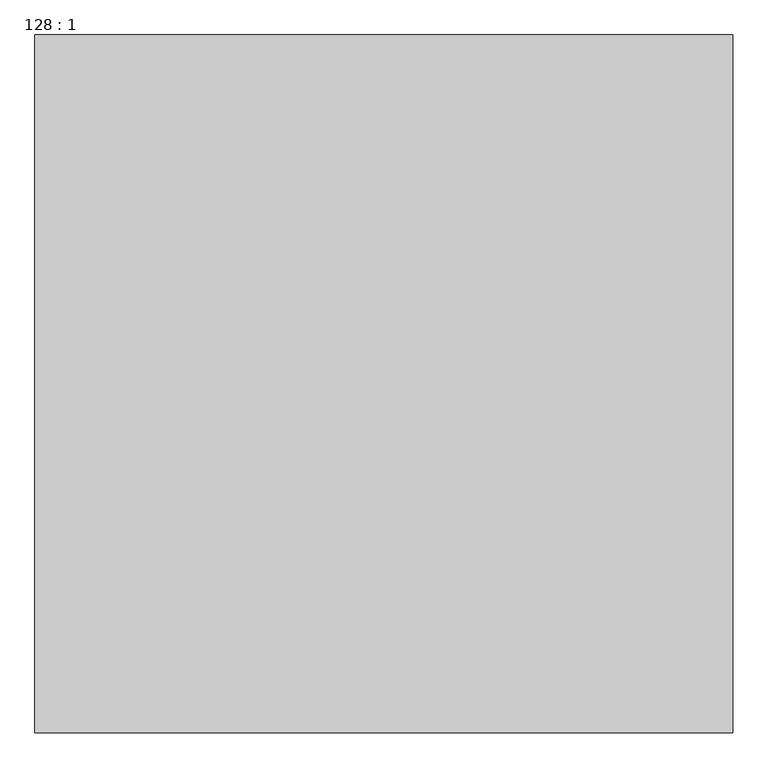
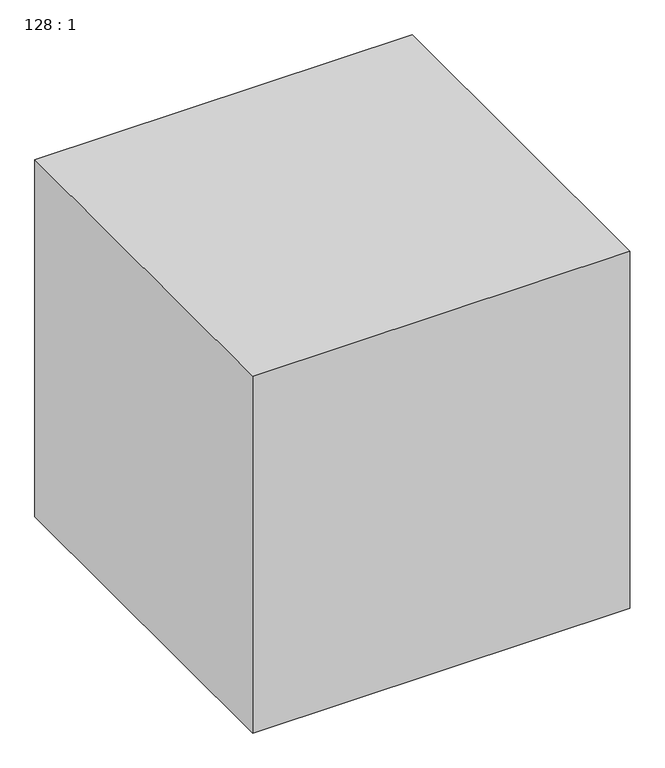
"""IFC4 building model written with IfcOpenShell, lengths in millimetres: proxy geometry, 128 : 1."""

import ifcopenshell
import ifcopenshell.guid

model = None  # the IFC model being written
_history = None  # IfcOwnerHistory: only IFC2X3 demands one
_inside = {}  # id of a spatial element -> (the spatial element, [elements in it])
_under = {}  # id of a project, library or spatial element -> (it, [spatial elements below it])
_declared = {}  # id of a project -> (the project, [libraries it declares])
_typed = {}  # id of a type object -> (the type object, [elements of that type])
_made_of = {}  # id of a material, layer set ... -> (it, [elements and type objects made of it])


def new_model(schema):
    """Start an empty IFC model of exactly this schema.

    Asked for "IFC4X3", IfcOpenShell would pick the latest addendum, in which some entities
    have other attributes; the version numbers below select the first issue.
    IFC2X3 requires an IfcOwnerHistory on every rooted entity: one is made here for all.
    """
    global model, _history
    if schema == "IFC4X3":
        model = ifcopenshell.file(schema_version=(4, 3, 0, 0))
    else:
        model = ifcopenshell.file(schema=schema)
    _inside.clear()
    _under.clear()
    _declared.clear()
    _typed.clear()
    _made_of.clear()
    _history = None
    if model.schema == "IFC2X3":
        org = make("IfcOrganization", Name="unknown")
        user = make(
            "IfcPersonAndOrganization",
            ThePerson=make("IfcPerson", FamilyName="unknown"),
            TheOrganization=org,
        )
        app = make(
            "IfcApplication",
            ApplicationDeveloper=org,
            Version="unknown",
            ApplicationFullName="unknown",
            ApplicationIdentifier="unknown",
        )
        _history = make(
            "IfcOwnerHistory",
            OwningUser=user,
            OwningApplication=app,
            ChangeAction="ADDED",
            CreationDate=0,
        )
    return model


def make(cls, **values):
    """One entity of the class cls with the attributes given. An attribute that is None is left unset."""
    return model.create_entity(
        cls, **{name: value for name, value in values.items() if value is not None}
    )


def rooted(cls, **values):
    """An entity with a GlobalId (a new one), such as an element, a storey or a relation."""
    return make(cls, GlobalId=ifcopenshell.guid.new(), OwnerHistory=_history, **values)


def si_unit(unit_type, name, prefix=None):
    """IfcSIUnit, for example si_unit("LENGTHUNIT", "METRE", prefix="MILLI")."""
    return make("IfcSIUnit", UnitType=unit_type, Prefix=prefix, Name=name)


def assignment(units):
    """IfcUnitAssignment: the units of a project."""
    return None if units is None else make("IfcUnitAssignment", Units=units)


def point(xyz):
    """IfcCartesianPoint."""
    return None if xyz is None else make("IfcCartesianPoint", Coordinates=xyz)


def direction(xyz):
    """IfcDirection."""
    return None if xyz is None else make("IfcDirection", DirectionRatios=xyz)


def frame(location, z_axis=None, x_axis=None):
    """IfcAxis2Placement3D, a coordinate frame: its origin and axes. An axis left out is left unset."""
    return make(
        "IfcAxis2Placement3D",
        Location=point(location),
        Axis=direction(z_axis),
        RefDirection=direction(x_axis),
    )


def origin():
    """The frame at (0, 0, 0) with its axes left unset."""
    return frame((0.0, 0.0, 0.0))


def origin_with_axes():
    """The frame at (0, 0, 0) with the z axis (0, 0, 1) and the x axis (1, 0, 0) written out."""
    return frame((0.0, 0.0, 0.0), z_axis=(0.0, 0.0, 1.0), x_axis=(1.0, 0.0, 0.0))


def place(relative_to, where):
    """IfcLocalPlacement: puts the frame where relative to a parent placement (None: the world)."""
    return make(
        "IfcLocalPlacement", PlacementRelTo=relative_to, RelativePlacement=where
    )


def context(
    kind, dimensions, precision=None, world=None, true_north=None, identifier=None
):
    """IfcGeometricRepresentationContext, for example the 3D "Model" context."""
    return make(
        "IfcGeometricRepresentationContext",
        ContextIdentifier=identifier,
        ContextType=kind,
        CoordinateSpaceDimension=dimensions,
        Precision=precision,
        WorldCoordinateSystem=world,
        TrueNorth=true_north,
    )


def project(units=None, contexts=None):
    """IfcProject with its units and contexts."""
    return rooted(
        "IfcProject",
        Name="project",
        RepresentationContexts=contexts,
        UnitsInContext=assignment(units),
    )


def spatial(cls, under=None, at=None, **own):
    """A site, building, storey or space (cls), placed at a placement, below another one or the project."""
    s = rooted(cls, ObjectPlacement=at, **own)
    if under is not None:
        _under.setdefault(under.id(), (under, []))[1].append(s)
    return s


def polyline(points):
    """IfcPolyline through the points."""
    return make("IfcPolyline", Points=[point(p) for p in points])


def outline(outer, holes=None, kind="AREA"):
    """IfcArbitraryClosedProfileDef: a profile drawn as a closed curve; with holes, ...WithVoids."""
    if holes is None:
        return make("IfcArbitraryClosedProfileDef", ProfileType=kind, OuterCurve=outer)
    return make(
        "IfcArbitraryProfileDefWithVoids",
        ProfileType=kind,
        OuterCurve=outer,
        InnerCurves=holes,
    )


def extrude(swept, where, along, depth):
    """IfcExtrudedAreaSolid: the profile swept, set in the frame where, extruded along a direction by depth."""
    return make(
        "IfcExtrudedAreaSolid",
        SweptArea=swept,
        Position=where,
        ExtrudedDirection=direction(along),
        Depth=depth,
    )


def shape(context_of_items, identifier, shape_type, items):
    """IfcShapeRepresentation: the items that make up one representation, for example the "Body"."""
    return make(
        "IfcShapeRepresentation",
        ContextOfItems=context_of_items,
        RepresentationIdentifier=identifier,
        RepresentationType=shape_type,
        Items=items,
    )


def source(mapping_origin, context_of_items, identifier, shape_type, items):
    """IfcRepresentationMap: a shape defined once, which mapped items show again and again."""
    return make(
        "IfcRepresentationMap",
        MappingOrigin=mapping_origin,
        MappedRepresentation=shape(context_of_items, identifier, shape_type, items),
    )


def transform(
    local_origin,
    x_axis=None,
    y_axis=None,
    z_axis=None,
    scale=None,
    scale2=None,
    scale3=None,
    uniform=True,
):
    """IfcCartesianTransformationOperator3D, or its non-uniform kind. x_axis, y_axis, z_axis: its Axis1, 2, 3."""
    if uniform:
        return make(
            "IfcCartesianTransformationOperator3D",
            Axis1=direction(x_axis),
            Axis2=direction(y_axis),
            LocalOrigin=point(local_origin),
            Scale=scale,
            Axis3=direction(z_axis),
        )
    return make(
        "IfcCartesianTransformationOperator3DnonUniform",
        Axis1=direction(x_axis),
        Axis2=direction(y_axis),
        LocalOrigin=point(local_origin),
        Scale=scale,
        Axis3=direction(z_axis),
        Scale2=scale2,
        Scale3=scale3,
    )


def mapped(mapping_source, mapping_target):
    """IfcMappedItem: shows the shape of a source again, moved by a transform."""
    return make(
        "IfcMappedItem", MappingSource=mapping_source, MappingTarget=mapping_target
    )


def made_of(thing, what):
    """Note that an element or type object is made of a material, layer set ...; save() writes the relation."""
    if what is not None:
        _made_of.setdefault(what.id(), (what, []))[1].append(thing)
    return thing


def element(
    cls,
    number,
    at=None,
    inside=None,
    cuts=None,
    type_object=None,
    material=None,
    context=None,
    identifier="Body",
    shape_type=None,
    held_by="IfcProductDefinitionShape",
    body=None,
    shapes=None,
    **own,
):
    """One element of the class cls, such as IfcWall. Its Tag is "e" and its number.

    at: its placement. inside: the storey or other place that contains it. cuts: it is an
    opening in that element (IfcRelVoidsElement). A single representation is given by context,
    identifier, shape_type and body (its items); several are given by shapes. held_by: the class
    of the entity that holds the representations. save() writes the other relations.
    """
    e = rooted(cls, Tag="e%d" % number, ObjectPlacement=at, **own)
    if body is not None:
        shapes = [shape(context, identifier, shape_type, body)]
    if shapes is not None:
        e.Representation = make(held_by, Representations=shapes)
    if inside is not None:
        _inside.setdefault(inside.id(), (inside, []))[1].append(e)
    if cuts is not None:
        rooted(
            "IfcRelVoidsElement", RelatingBuildingElement=cuts, RelatedOpeningElement=e
        )
    if type_object is not None:
        _typed.setdefault(type_object.id(), (type_object, []))[1].append(e)
    return made_of(e, material)


def aggregate(whole, parts):
    """IfcRelAggregates: a whole, such as a stair, and the parts it consists of."""
    return rooted("IfcRelAggregates", RelatingObject=whole, RelatedObjects=parts)


def save(model, path):
    """Write the relations noted so far, then the file.

    IfcRelAggregates (storeys below a building ...), IfcRelContainedInSpatialStructure (elements
    in a storey), IfcRelDefinesByType, IfcRelAssociatesMaterial and IfcRelDeclares: one each for
    every whole, place, type object, material and project.
    """
    for whole, parts in _under.values():
        aggregate(whole, parts)
    for where, things in _inside.values():
        rooted(
            "IfcRelContainedInSpatialStructure",
            RelatedElements=things,
            RelatingStructure=where,
        )
    for kind, things in _typed.values():
        rooted("IfcRelDefinesByType", RelatedObjects=things, RelatingType=kind)
    for what, things in _made_of.values():
        rooted("IfcRelAssociatesMaterial", RelatedObjects=things, RelatingMaterial=what)
    for by, libraries in _declared.values():
        rooted("IfcRelDeclares", RelatingContext=by, RelatedDefinitions=libraries)
    model.write(path)


def proxy_128_1_ce818b8a(model_context):
    return source(origin(), model_context, "Body", "SweptSolid", [
        extrude(outline(polyline([(3692.0243292, -8664.7705528), (3692.0243292, -9664.7705528), (2692.0243292, -9664.7705528), (2692.0243292, -8664.7705528), (3692.0243292, -8664.7705528)])), origin_with_axes(), (0.0, 0.0, 1.0), 1000.0),
    ])


if __name__ == "__main__":
    model = new_model("IFC4")
    model_context = context("Model", 3, world=origin())
    ifc_project = project(units=[si_unit("LENGTHUNIT", "METRE", prefix="MILLI")], contexts=[model_context])
    site = spatial("IfcSite", under=ifc_project)
    building = spatial("IfcBuilding", under=site)
    placement = place(None, origin())
    proxy_128_1_shape = proxy_128_1_ce818b8a(model_context)
    element("IfcBuildingElementProxy", 1, Name="128 : 1", ObjectType="128 : 1", at=placement, inside=building, context=model_context, shape_type="MappedRepresentation", body=[
        mapped(proxy_128_1_shape, transform((0.0, 0.0, 0.0), x_axis=(1.0, 0.0, 0.0), y_axis=(0.0, 1.0, 0.0), z_axis=(0.0, 0.0, 1.0))),
    ])
    save(model, "model.ifc")
